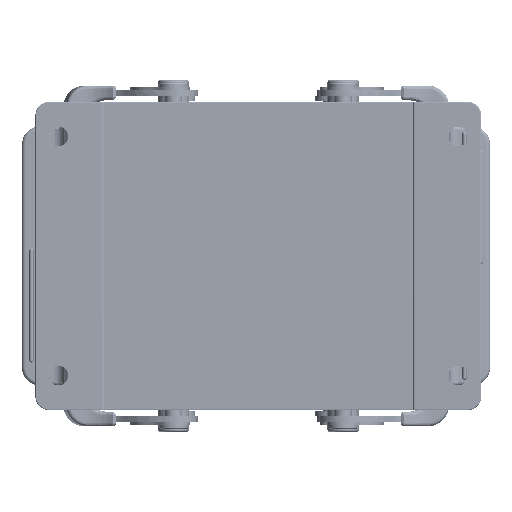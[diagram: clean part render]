
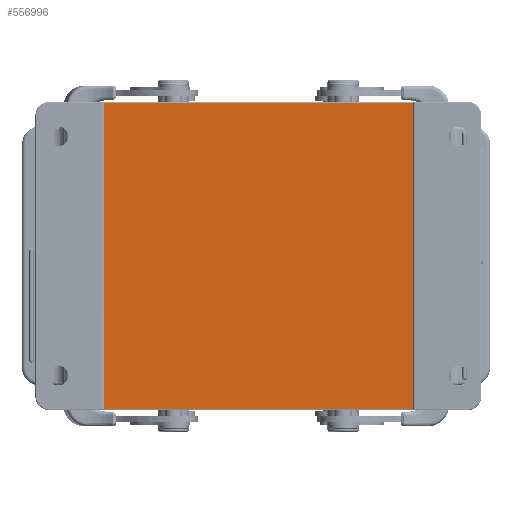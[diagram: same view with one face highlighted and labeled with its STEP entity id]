
A CAD part, front view. The second image highlights one B-rep face of the part: STEP entity #556996.
In plain terms, the highlighted planar face has unit normal (0, -1, 0) as drawn and (0, 0, -1) by its records, which use the part's own axes.
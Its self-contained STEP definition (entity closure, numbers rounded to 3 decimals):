
#47880 = VERTEX_POINT ( 'NONE', #563678 ) ;
#52193 = CARTESIAN_POINT ( 'NONE',  ( 105.7, 87.266, -86.1 ) ) ;
#52582 = CARTESIAN_POINT ( 'NONE',  ( 62.5, 44.339, -86.1 ) ) ;
#106899 = AXIS2_PLACEMENT_3D ( 'NONE', #52582, #240108, #491259 ) ;
#108028 = CARTESIAN_POINT ( 'NONE',  ( 19.3, 1.412, -86.1 ) ) ;
#145050 = DIRECTION ( 'NONE',  ( 0., -1., 0. ) ) ;
#147949 = CARTESIAN_POINT ( 'NONE',  ( 19.3, 44.339, -86.1 ) ) ;
#158550 = DIRECTION ( 'NONE',  ( 0., 1., 0. ) ) ;
#240108 = DIRECTION ( 'NONE',  ( 0., 0., 1. ) ) ;
#244486 = ORIENTED_EDGE ( 'NONE', *, *, #428553, .F. ) ;
#285011 = VECTOR ( 'NONE', #145050, 1000. ) ;
#295263 = VERTEX_POINT ( 'NONE', #422720 ) ;
#337502 = ORIENTED_EDGE ( 'NONE', *, *, #362394, .F. ) ;
#340192 = ORIENTED_EDGE ( 'NONE', *, *, #423762, .F. ) ;
#362394 = EDGE_CURVE ( 'NONE', #295263, #422900, #573181, .T. ) ;
#363543 = ORIENTED_EDGE ( 'NONE', *, *, #504255, .F. ) ;
#364569 = PLANE ( 'NONE',  #106899 ) ;
#368611 = DIRECTION ( 'NONE',  ( -1., 0., 0. ) ) ;
#379539 = CARTESIAN_POINT ( 'NONE',  ( 62.5, 87.266, -86.1 ) ) ;
#382325 = VECTOR ( 'NONE', #441179, 1000. ) ;
#422720 = CARTESIAN_POINT ( 'NONE',  ( 105.7, 1.412, -86.1 ) ) ;
#422900 = VERTEX_POINT ( 'NONE', #52193 ) ;
#423762 = EDGE_CURVE ( 'NONE', #422900, #47880, #454015, .T. ) ;
#428553 = EDGE_CURVE ( 'NONE', #546489, #295263, #523706, .T. ) ;
#435012 = EDGE_LOOP ( 'NONE', ( #340192, #337502, #244486, #363543 ) ) ;
#438382 = VECTOR ( 'NONE', #368611, 1000. ) ;
#441179 = DIRECTION ( 'NONE',  ( 1., 0., 0. ) ) ;
#452879 = FACE_OUTER_BOUND ( 'NONE', #435012, .T. ) ;
#454015 = LINE ( 'NONE', #379539, #438382 ) ;
#473335 = VECTOR ( 'NONE', #158550, 1000. ) ;
#476719 = CARTESIAN_POINT ( 'NONE',  ( 62.5, 1.412, -86.1 ) ) ;
#491259 = DIRECTION ( 'NONE',  ( 1., 0., 0. ) ) ;
#504255 = EDGE_CURVE ( 'NONE', #47880, #546489, #551029, .T. ) ;
#523305 = CARTESIAN_POINT ( 'NONE',  ( 105.7, 44.339, -86.1 ) ) ;
#523706 = LINE ( 'NONE', #476719, #382325 ) ;
#546489 = VERTEX_POINT ( 'NONE', #108028 ) ;
#551029 = LINE ( 'NONE', #147949, #285011 ) ;
#556996 = ADVANCED_FACE ( 'NONE', ( #452879 ), #364569, .F. ) ;
#563678 = CARTESIAN_POINT ( 'NONE',  ( 19.3, 87.266, -86.1 ) ) ;
#573181 = LINE ( 'NONE', #523305, #473335 ) ;
